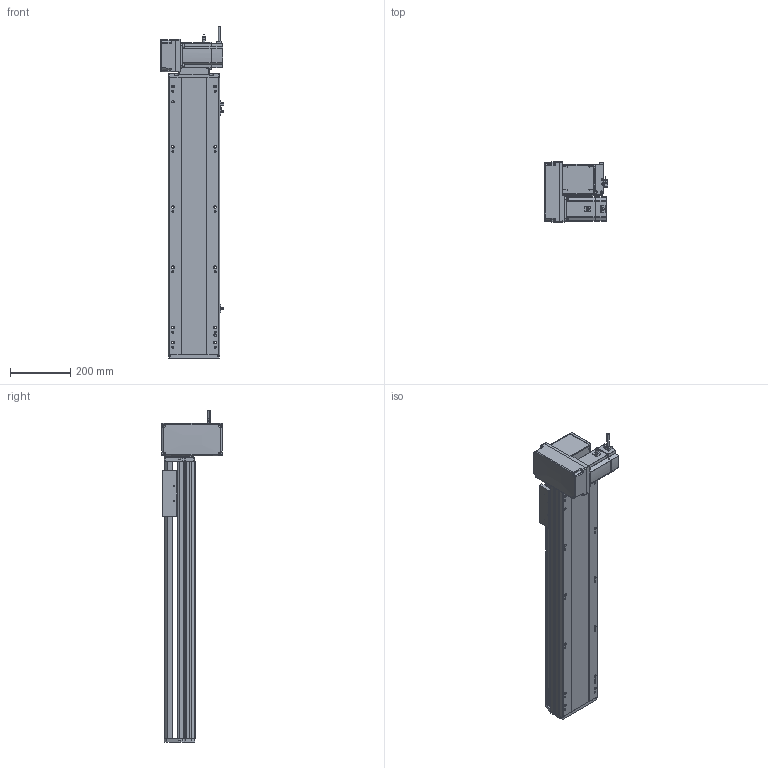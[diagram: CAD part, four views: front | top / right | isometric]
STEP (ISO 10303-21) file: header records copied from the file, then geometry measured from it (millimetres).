
FILE_DESCRIPTION (( 'STEP AP214' ), '1' );
FILE_NAME ('RTB17S-XX-650-LM-M75-C4.STEP', '2025-12-12T00:36:09', ( '' ), ( '' ), 'SwSTEP 2.0', 'SolidWorks 2018', '' );
FILE_SCHEMA (( 'AUTOMOTIVE_DESIGN' ));
Length unit declared in the file: millimetre
Products named in the file (15): RTB17S-賑釱^RTB17S-XX-XX-LM-M75-C4; RTB17S-LM-々湍釱蚾饜-750W^RTB17S-XX-XX-LM-M75-C4; RTB22S-GY-017P^RTB17S-LM-々湍釱蚾饜-750W_RTB17S-XX-XX-LM-M75-C4; RTB17S-L-014-T20-P75--々湍釱^RTB17S-LM-々湍釱蚾饜-750W_RTB17S-XX-XX-LM-M75-C4; RTB17-R-011菁釱^RTB17S-XX-XX-LM-M75-C4; EE672^RTB17S-XX-XX-LM-M75-C4; RTB17S-L-004-賑釱^RTB17S-賑釱_RTB17S-XX-XX-LM-M75-C4; RTB22S-GY-008-M75--萇儂啣^RTB17S-LM-々湍釱蚾饜-750W_RTB17S-XX-XX-LM-M75-C4; RTB22S-GY-005P^RTB17S-LM-々湍釱蚾饜-750W_RTB17S-XX-XX-LM-M75-C4; RTB22S-GY-018P^RTB17S-LM-々湍釱蚾饜-750W_RTB17S-XX-XX-LM-M75-C4; RTB17S-L-001-耜醱啣^RTB17S-XX-XX-LM-M75-C4; 750W萇儂^RTB17S-XX-XX-LM-M75-C4; RTB17S-L-007奻裔^RTB17S-XX-XX-LM-M75-C4; RTB17S-XX-650-LM-M75-C4; RTH13-BL-012覜茼え俋离^RTB17S-賑釱_RTB17S-XX-XX-LM-M75-C4
Assembly tree (17 placements, depth 3):
  RTB17S-XX-650-LM-M75-C4
    RTB17-R-011菁釱^RTB17S-XX-XX-LM-M75-C4
    EE672^RTB17S-XX-XX-LM-M75-C4  x3
    RTB17S-L-001-耜醱啣^RTB17S-XX-XX-LM-M75-C4
    RTB17S-賑釱^RTB17S-XX-XX-LM-M75-C4
      RTB17S-L-004-賑釱^RTB17S-賑釱_RTB17S-XX-XX-LM-M75-C4
      RTH13-BL-012覜茼え俋离^RTB17S-賑釱_RTB17S-XX-XX-LM-M75-C4
    RTB17S-L-007奻裔^RTB17S-XX-XX-LM-M75-C4
    750W萇儂^RTB17S-XX-XX-LM-M75-C4
    RTB17S-LM-々湍釱蚾饜-750W^RTB17S-XX-XX-LM-M75-C4
      RTB17S-L-014-T20-P75--々湍釱^RTB17S-LM-々湍釱蚾饜-750W_RTB17S-XX-XX-LM-M75-C4
      RTB22S-GY-005P^RTB17S-LM-々湍釱蚾饜-750W_RTB17S-XX-XX-LM-M75-C4
      RTB22S-GY-017P^RTB17S-LM-々湍釱蚾饜-750W_RTB17S-XX-XX-LM-M75-C4  x2
      RTB22S-GY-008-M75--萇儂啣^RTB17S-LM-々湍釱蚾饜-750W_RTB17S-XX-XX-LM-M75-C4
      RTB22S-GY-018P^RTB17S-LM-々湍釱蚾饜-750W_RTB17S-XX-XX-LM-M75-C4
Bounding box: 210.4 x 200 x 1102.2 mm (x, y, z)
Volume: 10007991.2 mm3; surface area: 1642802.5 mm2
Topology: 17 solids, 17 shells, 2073 faces, 5728 edges, 3698 vertices
Faces by surface type: plane 968, cylinder 689, bspline 294, cone 110, sphere 8, torus 4
Entity records: 57334 total; most frequent: CARTESIAN_POINT 16792, ORIENTED_EDGE 8300, DIRECTION 7772, EDGE_CURVE 4150, AXIS2_PLACEMENT_3D 2718, VERTEX_POINT 2702, LINE 2336, VECTOR 2336
